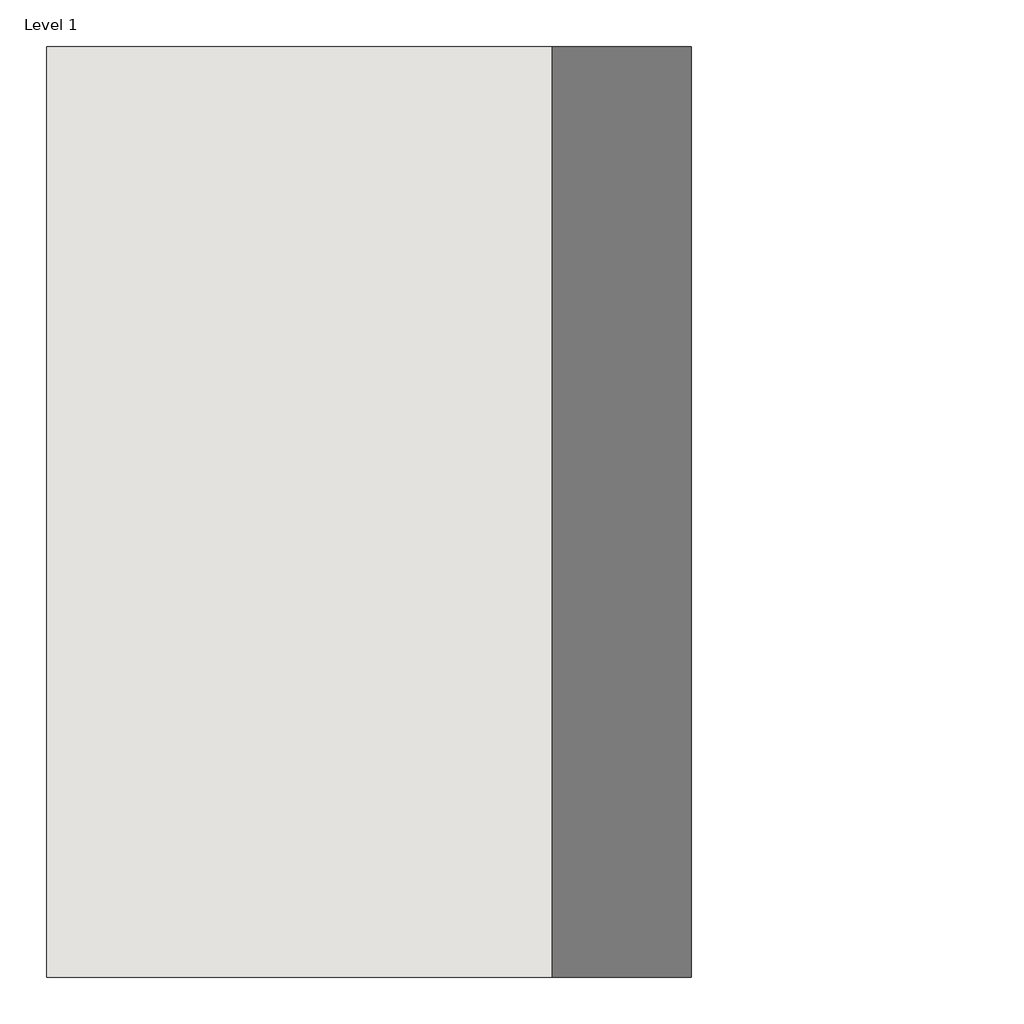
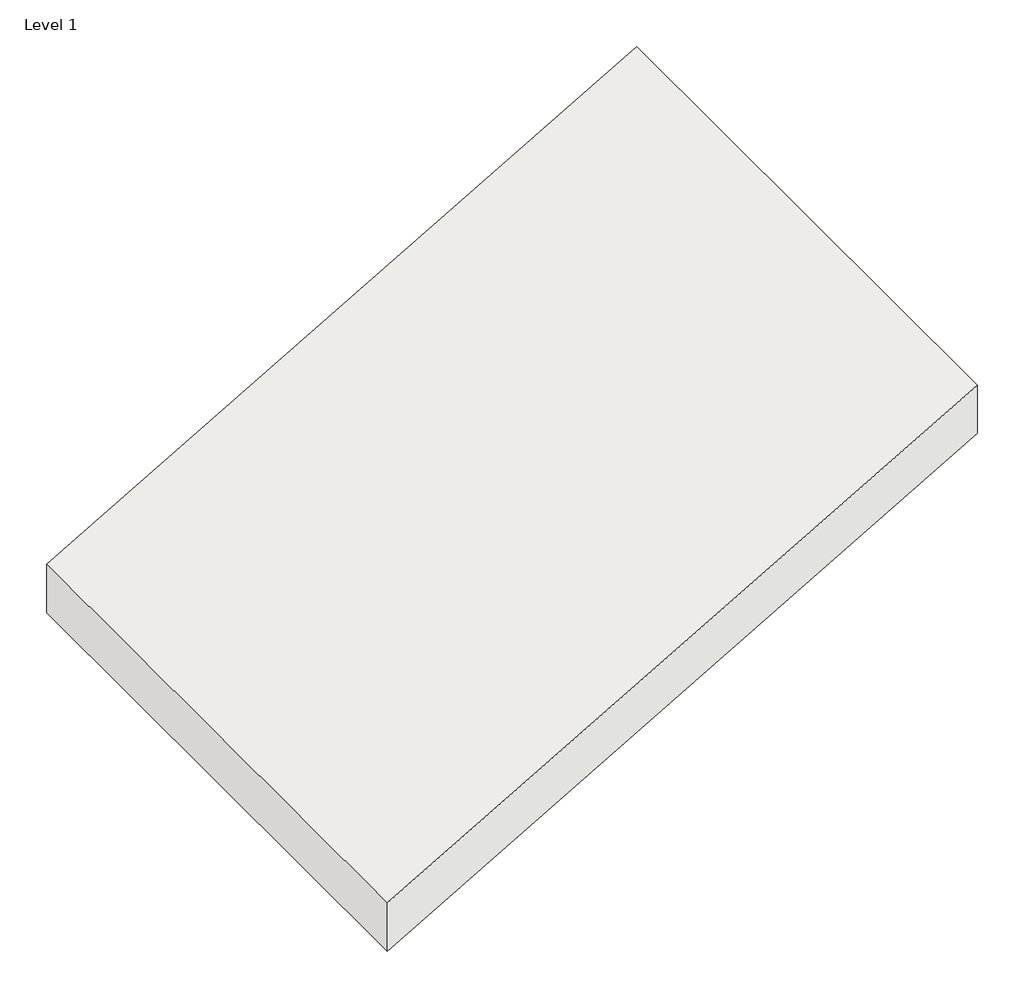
# One storey: 1 roof.
"""IFC4 building model written with IfcOpenShell, lengths in millimetres."""

from ifc_helpers import new_model, si_unit, frame, origin, place, context, project, spatial, polyline, outline, extrude, element, save

model = new_model("IFC4")

# Units and contexts
model_context = context("Model", 3, world=origin())
ifc_project = project(units=[si_unit("LENGTHUNIT", "METRE", prefix="MILLI")], contexts=[model_context])

# Site, building, storey
site = spatial("IfcSite", under=ifc_project)
building = spatial("IfcBuilding", under=site)
storey = spatial("IfcBuildingStorey", under=building, Name="Level 1", Elevation=0.0)

# Roof
placement = place(None, origin())
element("IfcRoof", 1, ObjectType="RIGIPS - 4.70.05 - REI 30", at=placement, inside=storey, context=model_context, shape_type="SweptSolid", body=[
    extrude(outline(polyline([(1991.8584287, 1500.0), (259.8076211, -1500.0), (0.0, -1500.0), (1732.0508076, 1500.0), (1991.8584287, 1500.0)])), frame((0.0, -1500.0, 0.0), z_axis=(0.0, 1.0, 0.0), x_axis=(0.0, 0.0, 1.0)), (0.0, 0.0, 1.0), 3000.0),
])

save(model, "model.ifc")
